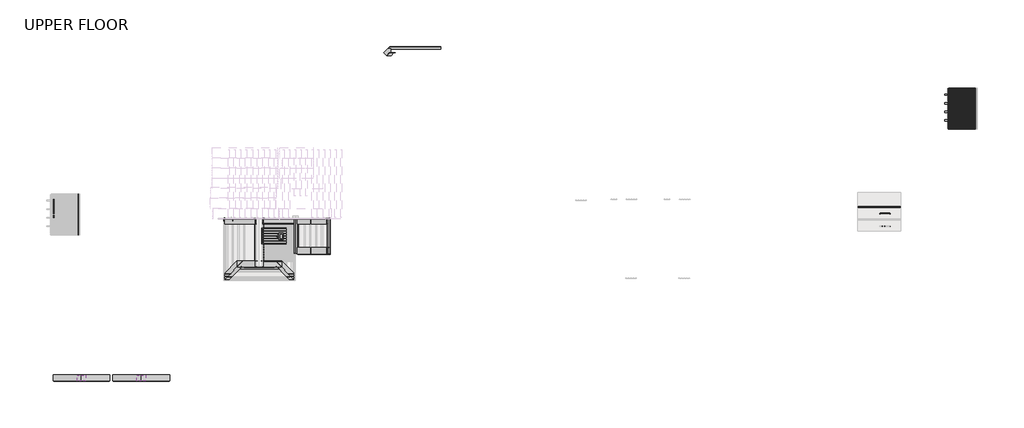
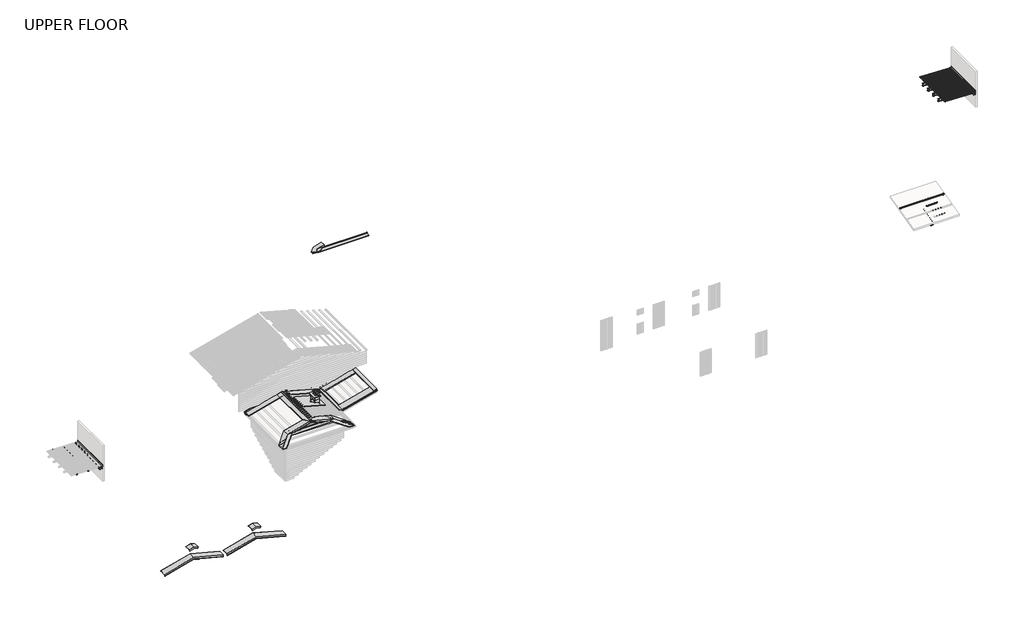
# One storey, part 8 of 8: 36 proxies, 29 beams, 1 furniture element.
"""IFC4 building model written with IfcOpenShell, lengths in millimetres."""

from ifc_helpers import new_model, si_unit, point, frame, frame_2d, origin, place, context, project, spatial, polyline, circle_curve, trimmed, segment, composite_curve, outline, extrude, transform, mapped, element, save
from components import beam_2c57848d, beam_13ac7b86, purlin_purlin_466a0f04, ub_universal_beams_310ub40_4_2dd72c29, ub_universal_beams1_180ub16_1_2_0ceb9c67, generic_models_1df02112, generic_models_45f0d053, generic_models_15316e2f, proxy_45_x_140_beam_11_45_x_140_truss_cd76295c, proxy_45_x_140_beam_2_45_x_140_truss_365ee18d, proxy_45_x_140_beam_3_45_x_140_truss_e8b19fd3, proxy_45_x_140_beam_9_45_x_140_truss_0c6993bd, proxy_45_x_140_beam1_45_x_140_truss_8a47d5ee, proxy_45_x_140_beam2_45_x_140_truss_fb012f4a, proxy_45_x_75_purlin2_45_x_75_purlin_c250b625, proxy_45_x_75_purlin4_45_x_75_purlin_212eab0b, chimney_flashing4_chimney_flashing_829a81cc, chimney_penetration_flashing6_chimney_flashing_7fd86eaf, gutter_board1_gutter_board_67940167, gutter_board2_gutter_board_2d66de1e, roof_b_apron_flashing_2_roof_b_apron_flashing_bac6bcd3, roof_b_apron_flashing_3_roof_b_apron_flashing_e510a248, roof_b_apron_flashing_35_roof_b_apron_flashing_1c69f136, roof_b_barge_flashing10_roof_a_barge_flashing_33ecfb67, roof_b_barge_flashing11_roof_a_barge_flashing_02d569b2, roof_b_barge_flashing12_roof_a_barge_flashing_be4ac543, roof_b_barge_flashing13_roof_a_barge_flashing_57eb997f, roof_b_barge_flashing8_roof_a_barge_flashing_5f2c9a0e, roof_b_barge_flashing9_roof_a_barge_flashing_b211f0b6, roof_b_gutter_end1_roof_b_gutter_end_b5080205, roof_b_hip_flashing_3_roof_b_hip_flashing_29ceef20, roof_b_hip_flashing_4_roof_b_hip_flashing_d01cb08e, roof_b_hip_flashing_5_roof_b_hip_flashing_d5f08a0e, roof_b_ridge_cap_flashing3_ridge_cap_flashing_0eb95630, roof_c_barge_flashing1_roof_c_barge_flashing_03f101cb, roof_c_ridge_flashing1_roof_c_ridge_flashing_aa150d14, roof_c_valley_gutter1_roof_b_valley_gutter_6401df76, chimney_type1_2221_350x500x1500_842d32dd

model = new_model("IFC4")

# Units and contexts
model_context = context("Model", 3, world=origin())
ifc_project = project(units=[si_unit("LENGTHUNIT", "METRE", prefix="MILLI")], contexts=[model_context])

# Site, building, storey
site = spatial("IfcSite", under=ifc_project)
building = spatial("IfcBuilding", under=site)
storey = spatial("IfcBuildingStorey", under=building, Name="UPPER FLOOR", Elevation=2700.0)

# Beams
placement = place(None, origin())
beam_shape = beam_2c57848d(model_context)
element("IfcBeam", 1, ObjectType="3D_Metalcraft Translucent Fixing_T-Rib : 3D_Metalcraft Translucent Fixing_T-Rib", at=placement, inside=storey, context=model_context, shape_type="MappedRepresentation", body=[
    mapped(beam_shape, transform((33667.6173989, -22662.3934233, 1361.9145333), x_axis=(0.0, -0.9656300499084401, -0.2599203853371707), y_axis=(1.0, 0.0, 0.0), z_axis=(0.0, -0.25992038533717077, 0.9656300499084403))),
])
element("IfcBeam", 2, ObjectType="3D_Metalcraft Translucent Fixing_T-Rib : 3D_Metalcraft Translucent Fixing_T-Rib", at=placement, inside=storey, context=model_context, shape_type="MappedRepresentation", body=[
    mapped(beam_shape, transform((33667.6173989, -21715.7861135, 1615.5571975), x_axis=(0.0, -0.9656300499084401, -0.2599203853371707), y_axis=(1.0, 0.0, 0.0), z_axis=(0.0, -0.25992038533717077, 0.9656300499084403))),
])
element("IfcBeam", 3, ObjectType="3D_Metalcraft Translucent Fixing_T-Rib : 3D_Metalcraft Translucent Fixing_T-Rib", at=placement, inside=storey, context=model_context, shape_type="MappedRepresentation", body=[
    mapped(beam_shape, transform((32907.6174384, -21715.7861135, 1615.5571975), x_axis=(0.0, -0.9656300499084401, -0.2599203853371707), y_axis=(1.0, 0.0, 0.0), z_axis=(0.0, -0.25992038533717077, 0.9656300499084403))),
])
element("IfcBeam", 4, ObjectType="3D_Metalcraft Translucent Fixing_T-Rib : 3D_Metalcraft Translucent Fixing_T-Rib", at=placement, inside=storey, context=model_context, shape_type="MappedRepresentation", body=[
    mapped(beam_shape, transform((33667.6173989, -22189.0897684, 1488.7358654), x_axis=(0.0, -0.9656300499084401, -0.2599203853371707), y_axis=(1.0, 0.0, 0.0), z_axis=(0.0, -0.25992038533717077, 0.9656300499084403))),
])
element("IfcBeam", 5, ObjectType="3D_Metalcraft Translucent Fixing_T-Rib : 3D_Metalcraft Translucent Fixing_T-Rib", at=placement, inside=storey, context=model_context, shape_type="MappedRepresentation", body=[
    mapped(beam_shape, transform((33667.6173989, -21242.4824586, 1742.3785296), x_axis=(0.0, -0.9656300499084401, -0.2599203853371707), y_axis=(1.0, 0.0, 0.0), z_axis=(0.0, -0.25992038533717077, 0.9656300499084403))),
])
element("IfcBeam", 6, ObjectType="3D_Metalcraft Translucent Fixing_T-Rib : 3D_Metalcraft Translucent Fixing_T-Rib", at=placement, inside=storey, context=model_context, shape_type="MappedRepresentation", body=[
    mapped(beam_shape, transform((32907.6174384, -21242.4824586, 1742.3785296), x_axis=(0.0, -0.9656300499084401, -0.2599203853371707), y_axis=(1.0, 0.0, 0.0), z_axis=(0.0, -0.25992038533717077, 0.9656300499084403))),
])
element("IfcBeam", 7, ObjectType="3D_Metalcraft Translucent Fixing_T-Rib : 3D_Metalcraft Translucent Fixing_T-Rib", at=placement, inside=storey, context=model_context, shape_type="MappedRepresentation", body=[
    mapped(beam_shape, transform((33097.6173989, -22662.3934233, 1361.9145333), x_axis=(0.0, -0.9656300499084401, -0.2599203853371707), y_axis=(0.9999999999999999, 0.0, 0.0), z_axis=(0.0, -0.2599203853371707, 0.9656300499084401))),
])
element("IfcBeam", 8, ObjectType="3D_Metalcraft Translucent Fixing_T-Rib : 3D_Metalcraft Translucent Fixing_T-Rib", at=placement, inside=storey, context=model_context, shape_type="MappedRepresentation", body=[
    mapped(beam_shape, transform((33097.6173989, -21715.7861135, 1615.5571975), x_axis=(0.0, -0.9656300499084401, -0.2599203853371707), y_axis=(0.9999999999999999, 0.0, 0.0), z_axis=(0.0, -0.2599203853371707, 0.9656300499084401))),
])
element("IfcBeam", 9, ObjectType="3D_Metalcraft Translucent Fixing_T-Rib : 3D_Metalcraft Translucent Fixing_T-Rib", at=placement, inside=storey, context=model_context, shape_type="MappedRepresentation", body=[
    mapped(beam_shape, transform((33097.6173989, -22189.0897684, 1488.7358654), x_axis=(0.0, -0.9656300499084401, -0.2599203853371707), y_axis=(0.9999999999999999, 0.0, 0.0), z_axis=(0.0, -0.2599203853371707, 0.9656300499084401))),
])
element("IfcBeam", 10, ObjectType="3D_Metalcraft Translucent Fixing_T-Rib : 3D_Metalcraft Translucent Fixing_T-Rib", at=placement, inside=storey, context=model_context, shape_type="MappedRepresentation", body=[
    mapped(beam_shape, transform((33097.6173989, -21242.4824586, 1742.3785296), x_axis=(0.0, -0.9656300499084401, -0.2599203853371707), y_axis=(0.9999999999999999, 0.0, 0.0), z_axis=(0.0, -0.2599203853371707, 0.9656300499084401))),
])
element("IfcBeam", 11, ObjectType="3D_Metalcraft Translucent Fixing_T-Rib : 3D_Metalcraft Translucent Fixing_T-Rib", at=placement, inside=storey, context=model_context, shape_type="MappedRepresentation", body=[
    mapped(beam_shape, transform((33477.6173989, -22662.3934233, 1361.9145333), x_axis=(0.0, -0.9656300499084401, -0.2599203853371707), y_axis=(0.9999999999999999, 0.0, 0.0), z_axis=(0.0, -0.2599203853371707, 0.9656300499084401))),
])
element("IfcBeam", 12, ObjectType="3D_Metalcraft Translucent Fixing_T-Rib : 3D_Metalcraft Translucent Fixing_T-Rib", at=placement, inside=storey, context=model_context, shape_type="MappedRepresentation", body=[
    mapped(beam_shape, transform((33477.6173989, -21715.7861135, 1615.5571975), x_axis=(0.0, -0.9656300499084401, -0.2599203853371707), y_axis=(0.9999999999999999, 0.0, 0.0), z_axis=(0.0, -0.2599203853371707, 0.9656300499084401))),
])
element("IfcBeam", 13, ObjectType="3D_Metalcraft Translucent Fixing_T-Rib : 3D_Metalcraft Translucent Fixing_T-Rib", at=placement, inside=storey, context=model_context, shape_type="MappedRepresentation", body=[
    mapped(beam_shape, transform((33477.6173989, -22189.0897684, 1488.7358654), x_axis=(0.0, -0.9656300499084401, -0.2599203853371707), y_axis=(0.9999999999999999, 0.0, 0.0), z_axis=(0.0, -0.2599203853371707, 0.9656300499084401))),
])
element("IfcBeam", 14, ObjectType="3D_Metalcraft Translucent Fixing_T-Rib : 3D_Metalcraft Translucent Fixing_T-Rib", at=placement, inside=storey, context=model_context, shape_type="MappedRepresentation", body=[
    mapped(beam_shape, transform((33477.6173989, -21242.4824586, 1742.3785296), x_axis=(0.0, -0.9656300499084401, -0.2599203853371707), y_axis=(0.9999999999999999, 0.0, 0.0), z_axis=(0.0, -0.2599203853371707, 0.9656300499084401))),
])
element("IfcBeam", 15, ObjectType="3D_Metalcraft Translucent Fixing_T-Rib : 3D_Metalcraft Translucent Fixing_T-Rib", at=placement, inside=storey, context=model_context, shape_type="MappedRepresentation", body=[
    mapped(beam_shape, transform((33287.6173989, -22662.3934233, 1361.9145333), x_axis=(0.0, -0.9656300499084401, -0.2599203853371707), y_axis=(0.9999999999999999, 0.0, 0.0), z_axis=(0.0, -0.2599203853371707, 0.9656300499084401))),
])
element("IfcBeam", 16, ObjectType="3D_Metalcraft Translucent Fixing_T-Rib : 3D_Metalcraft Translucent Fixing_T-Rib", at=placement, inside=storey, context=model_context, shape_type="MappedRepresentation", body=[
    mapped(beam_shape, transform((33287.6173989, -21715.7861135, 1615.5571975), x_axis=(0.0, -0.9656300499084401, -0.2599203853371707), y_axis=(0.9999999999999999, 0.0, 0.0), z_axis=(0.0, -0.2599203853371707, 0.9656300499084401))),
])
element("IfcBeam", 17, ObjectType="3D_Metalcraft Translucent Fixing_T-Rib : 3D_Metalcraft Translucent Fixing_T-Rib", at=placement, inside=storey, context=model_context, shape_type="MappedRepresentation", body=[
    mapped(beam_shape, transform((33287.6173989, -22189.0897684, 1488.7358654), x_axis=(0.0, -0.9656300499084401, -0.2599203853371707), y_axis=(0.9999999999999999, 0.0, 0.0), z_axis=(0.0, -0.2599203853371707, 0.9656300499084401))),
])
element("IfcBeam", 18, ObjectType="3D_Metalcraft Translucent Fixing_T-Rib : 3D_Metalcraft Translucent Fixing_T-Rib", at=placement, inside=storey, context=model_context, shape_type="MappedRepresentation", body=[
    mapped(beam_shape, transform((33287.6173989, -21242.4824586, 1742.3785296), x_axis=(0.0, -0.9656300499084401, -0.2599203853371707), y_axis=(0.9999999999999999, 0.0, 0.0), z_axis=(0.0, -0.2599203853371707, 0.9656300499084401))),
])
beam_2_shape = beam_13ac7b86(model_context)
element("IfcBeam", 19, ObjectType="3D_Metalcraft Corrugate : Corrugate 2", at=placement, inside=storey, context=model_context, shape_type="MappedRepresentation", body=[
    mapped(beam_2_shape, transform((38985.9396263, -15308.8975802, 3891.5237985), x_axis=(-0.9994194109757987, 0.0, 0.03407111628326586), y_axis=(0.0, -1.0, 0.0), z_axis=(0.034071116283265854, 0.0, 0.9994194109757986))),
])
element("IfcBeam", 20, ObjectType="3D_Metalcraft Corrugate : Corrugate 2", at=placement, inside=storey, context=model_context, shape_type="MappedRepresentation", body=[
    mapped(beam_2_shape, transform((38985.9396263, -14549.2471577, 3891.5237985), x_axis=(-0.9994194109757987, 0.0, 0.03407111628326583), y_axis=(0.0, -1.0, 0.0), z_axis=(0.034071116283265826, 0.0, 0.9994194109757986))),
])
element("IfcBeam", 21, ObjectType="3D_Metalcraft Corrugate : Corrugate 2", at=placement, inside=storey, context=model_context, shape_type="MappedRepresentation", body=[
    mapped(beam_2_shape, transform((38985.9396263, -13789.0646025, 3891.5237985), x_axis=(-0.9994194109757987, 0.0, 0.03407111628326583), y_axis=(0.0, -1.0, 0.0), z_axis=(0.034071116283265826, 0.0, 0.9994194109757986))),
])
element("IfcBeam", 22, ObjectType="3D_Metalcraft Corrugate : Corrugate 2", at=placement, inside=storey, context=model_context, shape_type="MappedRepresentation", body=[
    mapped(beam_2_shape, transform((38985.9396263, -13029.41418, 3891.5237985), x_axis=(-0.9994194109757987, 0.0, 0.03407111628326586), y_axis=(0.0, -1.0, 0.0), z_axis=(0.034071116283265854, 0.0, 0.9994194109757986))),
])
purlin_purlin_shape = purlin_purlin_466a0f04(model_context)
element("IfcBeam", 23, ObjectType="Purlin : Purlin", at=placement, inside=storey, context=model_context, shape_type="MappedRepresentation", body=[
    mapped(purlin_purlin_shape, transform((32862.0754421, -21208.9040363, 1614.5173623), x_axis=(1.0, 0.0, 0.0), y_axis=(0.0, 0.9659258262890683, 0.25881904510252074), z_axis=(0.0, -0.25881904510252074, 0.9659258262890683))),
])
element("IfcBeam", 24, ObjectType="3D_Metalcraft Mid Span Support_T-Rib : T-Rib", at=placement, inside=storey, context=model_context, shape_type="SweptSolid", body=[
    extrude(outline(composite_curve([segment(polyline([(5.0675073, -16.820582), (-15.4966673, -30.4481177)]), True, "CONTINUOUS"), segment(trimmed(circle_curve(frame_2d((11.2731701, -38.9897782)), 28.0995402), [point((-15.4966673, -30.4481177))], [point((-16.8263695, -38.9956931))], True, "CARTESIAN"), True, "CONTINUOUS"), segment(trimmed(circle_curve(frame_2d((11.2731701, -39.001608)), 28.0995402), [point((-16.8263695, -38.9956931))], [point((-15.4966673, -47.5432685))], True, "CARTESIAN"), True, "CONTINUOUS"), segment(polyline([(-15.4966673, -47.5432685), (-9.0302865, -51.8284313)]), True, "CONTINUOUS"), segment(trimmed(circle_curve(frame_2d((-9.3064861, -52.2452211)), 0.5), [point((-9.0302865, -51.8284313))], [point((-9.5826858, -52.6620109))], False, "CARTESIAN"), True, "CONTINUOUS"), segment(polyline([(-9.5826858, -52.6620109), (-16.3395078, -48.1843776)]), True, "CONTINUOUS"), segment(trimmed(circle_curve(frame_2d((11.2731701, -39.001608)), 29.0995402), [point((-16.3395078, -48.1843776))], [point((-17.8263694, -38.9956931))], False, "CARTESIAN"), True, "CONTINUOUS"), segment(trimmed(circle_curve(frame_2d((11.2731701, -38.9897782)), 29.0995402), [point((-17.8263694, -38.9956931))], [point((-16.3395078, -29.8070086))], False, "CARTESIAN"), True, "CONTINUOUS"), segment(polyline([(-16.3395078, -29.8070086), (4.5151079, -15.9870024)]), True, "CONTINUOUS"), segment(trimmed(circle_curve(frame_2d((0.0, -9.1736305)), 8.1736305), [point((4.5151079, -15.9870024))], [point((8.1736305, -9.1736305))], True, "CARTESIAN"), True, "CONTINUOUS"), segment(polyline([(8.1736305, -9.1736305), (8.1736305, 691.1822444)]), True, "CONTINUOUS"), segment(trimmed(circle_curve(frame_2d((0.0, 691.1822444)), 8.1736305), [point((8.1736305, 691.1822444))], [point((4.5151079, 697.9956162))], True, "CARTESIAN"), True, "CONTINUOUS"), segment(polyline([(4.5151079, 697.9956162), (-16.3395078, 711.8156224)]), True, "CONTINUOUS"), segment(trimmed(circle_curve(frame_2d((11.2731701, 720.998392)), 29.0995402), [point((-16.3395078, 711.8156224))], [point((-17.8263694, 721.0043069))], False, "CARTESIAN"), True, "CONTINUOUS"), segment(trimmed(circle_curve(frame_2d((11.2731701, 721.0102218)), 29.0995402), [point((-17.8263694, 721.0043069))], [point((-16.3395078, 730.1929914))], False, "CARTESIAN"), True, "CONTINUOUS"), segment(polyline([(-16.3395078, 730.1929914), (-9.5826858, 734.6706247)]), True, "CONTINUOUS"), segment(trimmed(circle_curve(frame_2d((-9.3064861, 734.2538349)), 0.5), [point((-9.5826858, 734.6706247))], [point((-9.0302865, 733.8370451))], False, "CARTESIAN"), True, "CONTINUOUS"), segment(polyline([(-9.0302865, 733.8370451), (-15.4966673, 729.5518823)]), True, "CONTINUOUS"), segment(trimmed(circle_curve(frame_2d((11.2731701, 721.0102218)), 28.0995402), [point((-15.4966673, 729.5518823))], [point((-16.8263695, 721.0043069))], True, "CARTESIAN"), True, "CONTINUOUS"), segment(trimmed(circle_curve(frame_2d((11.2731701, 720.998392)), 28.0995402), [point((-16.8263695, 721.0043069))], [point((-15.4966673, 712.4567315))], True, "CARTESIAN"), True, "CONTINUOUS"), segment(polyline([(-15.4966673, 712.4567315), (5.0675073, 698.8291958)]), True, "CONTINUOUS"), segment(trimmed(circle_curve(frame_2d((0.0, 691.1822444)), 9.1736305), [point((5.0675073, 698.8291958))], [point((9.1736304, 691.1822444))], False, "CARTESIAN"), True, "CONTINUOUS"), segment(polyline([(9.1736304, 691.1822444), (9.1736304, -9.1736305)]), True, "CONTINUOUS"), segment(trimmed(circle_curve(frame_2d((0.0, -9.1736305)), 9.1736305), [point((9.1736304, -9.1736305))], [point((5.0675073, -16.820582))], False, "CARTESIAN"), True, "CONTINUOUS")], self_intersect=False)), frame((33630.4761297, -21721.8661886, 1563.1630908), z_axis=(0.0, 0.9656300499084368, 0.25992038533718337), x_axis=(0.0, 0.25992038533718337, -0.9656300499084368)), (0.0, 0.0, 1.0), 40.0),
    extrude(outline(polyline([(0.0, -1.0), (0.0, 0.0), (701.3215192, 0.0), (701.3215192, -1.0), (0.0, -1.0)])), frame((32938.328241, -21708.1193295, 1515.9394759), z_axis=(0.0, -0.25992038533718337, 0.9656300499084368), x_axis=(1.0, 0.0, 0.0)), (0.0, 0.0, 1.0), 40.0),
])
ub_universal_beams_310ub40_4_shape = ub_universal_beams_310ub40_4_2dd72c29(model_context)
element("IfcBeam", 25, ObjectType="UB-Universal Beams : 310UB40.4", at=placement, inside=storey, context=model_context, shape_type="MappedRepresentation", body=[
    mapped(ub_universal_beams_310ub40_4_shape, transform((32697.6173989, -21707.5527796, 1238.187272), x_axis=(0.0, 0.9658732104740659, 0.2590153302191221), y_axis=(-1.0, 0.0, 0.0), z_axis=(0.0, -0.2590153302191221, 0.9658732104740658))),
])
ub_universal_beams1_180ub16_1_2_shape = ub_universal_beams1_180ub16_1_2_0ceb9c67(model_context)
element("IfcBeam", 26, ObjectType="UB-Universal Beams1 : 180UB16.1 2", at=placement, inside=storey, context=model_context, shape_type="MappedRepresentation", body=[
    mapped(ub_universal_beams1_180ub16_1_2_shape, transform((38971.6659491, -14691.9640915, 3627.0670194), x_axis=(-0.9993895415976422, 0.0, 0.03493628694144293), y_axis=(0.0, -1.0, 0.0), z_axis=(0.03493628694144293, 0.0, 0.9993895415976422))),
])
element("IfcBeam", 27, ObjectType="UB-Universal Beams1 : 180UB16.1 2", at=placement, inside=storey, context=model_context, shape_type="MappedRepresentation", body=[
    mapped(ub_universal_beams1_180ub16_1_2_shape, transform((38971.6659491, -14046.9640915, 3627.0670194), x_axis=(-0.9993895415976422, 0.0, 0.03493628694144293), y_axis=(0.0, -1.0, 0.0), z_axis=(0.03493628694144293, 0.0, 0.9993895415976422))),
])
element("IfcBeam", 28, ObjectType="UB-Universal Beams1 : 180UB16.1 2", at=placement, inside=storey, context=model_context, shape_type="MappedRepresentation", body=[
    mapped(ub_universal_beams1_180ub16_1_2_shape, transform((38971.6659491, -13401.9640915, 3627.0670194), x_axis=(-0.9993895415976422, 0.0, 0.03493628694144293), y_axis=(0.0, -1.0, 0.0), z_axis=(0.03493628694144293, 0.0, 0.9993895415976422))),
])
element("IfcBeam", 29, ObjectType="UB-Universal Beams1 : 180UB16.1 2", at=placement, inside=storey, context=model_context, shape_type="MappedRepresentation", body=[
    mapped(ub_universal_beams1_180ub16_1_2_shape, transform((38971.6659491, -12756.9640915, 3627.0670194), x_axis=(-0.9993895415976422, 0.0, 0.03493628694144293), y_axis=(0.0, -1.0, 0.0), z_axis=(0.03493628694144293, 0.0, 0.9993895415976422))),
])

# Proxies
generic_models_shape = generic_models_1df02112(model_context)
element("IfcBuildingElementProxy", 30, Name="Roof B - Apron Diverter1 : Roof B - Apron Diverter", ObjectType="Roof B - Apron Diverter1 : Roof B - Apron Diverter", at=placement, inside=storey, context=model_context, shape_type="MappedRepresentation", body=[
    mapped(generic_models_shape, transform((0.0, 0.0, 0.0), x_axis=(1.0, 0.0, 0.0), y_axis=(0.0, 1.0, 0.0), z_axis=(0.0, 0.0, 1.0))),
])
generic_models_2_shape = generic_models_45f0d053(model_context)
element("IfcBuildingElementProxy", 31, Name="Prefinished Hidden Gutter1 : Prefinished Hidden Gutter", ObjectType="Prefinished Hidden Gutter1 : Prefinished Hidden Gutter", at=placement, inside=storey, context=model_context, shape_type="MappedRepresentation", body=[
    mapped(generic_models_2_shape, transform((0.0, 0.0, 0.0), x_axis=(1.0, 0.0, 0.0), y_axis=(0.0, 1.0, 0.0), z_axis=(0.0, 0.0, 1.0))),
])
generic_models_3_shape = generic_models_15316e2f(model_context)
element("IfcBuildingElementProxy", 32, Name="Prefinished Hidden Gutter2 : Prefinished Hidden Gutter", ObjectType="Prefinished Hidden Gutter2 : Prefinished Hidden Gutter", at=placement, inside=storey, context=model_context, shape_type="MappedRepresentation", body=[
    mapped(generic_models_3_shape, transform((0.0, 0.0, 0.0), x_axis=(1.0, 0.0, 0.0), y_axis=(0.0, 1.0, 0.0), z_axis=(0.0, 0.0, 1.0))),
])
proxy_45_x_140_beam_11_45_x_140_truss_shape = proxy_45_x_140_beam_11_45_x_140_truss_cd76295c(model_context)
element("IfcBuildingElementProxy", 33, Name="45 x 140 beam 11 : 45 x 140 truss", ObjectType="45 x 140 beam 11 : 45 x 140 truss", at=placement, inside=storey, context=model_context, shape_type="MappedRepresentation", body=[
    mapped(proxy_45_x_140_beam_11_45_x_140_truss_shape, transform((-125.9876535, 0.0, 0.0), x_axis=(1.0, 0.0, 0.0), y_axis=(0.0, 1.0, 0.0), z_axis=(0.0, 0.0, 1.0))),
])
proxy_45_x_140_beam_2_45_x_140_truss_shape = proxy_45_x_140_beam_2_45_x_140_truss_365ee18d(model_context)
element("IfcBuildingElementProxy", 34, Name="45 x 140 beam 2 : 45 x 140 truss", ObjectType="45 x 140 beam 2 : 45 x 140 truss", at=placement, inside=storey, context=model_context, shape_type="MappedRepresentation", body=[
    mapped(proxy_45_x_140_beam_2_45_x_140_truss_shape, transform((-155.7036106, 0.0, 0.0), x_axis=(1.0, 0.0, 0.0), y_axis=(0.0, 1.0, 0.0), z_axis=(0.0, 0.0, 1.0))),
])
proxy_45_x_140_beam_3_45_x_140_truss_shape = proxy_45_x_140_beam_3_45_x_140_truss_e8b19fd3(model_context)
element("IfcBuildingElementProxy", 35, Name="45 x 140 beam 3 : 45 x 140 truss", ObjectType="45 x 140 beam 3 : 45 x 140 truss", at=placement, inside=storey, context=model_context, shape_type="MappedRepresentation", body=[
    mapped(proxy_45_x_140_beam_3_45_x_140_truss_shape, transform((-155.7036106, 2.3451936, 0.0), x_axis=(1.0, 0.0, 0.0), y_axis=(0.0, 1.0, 0.0), z_axis=(0.0, 0.0, 1.0))),
])
element("IfcBuildingElementProxy", 36, Name="45 x 140 beam 5 : 45 x 140 truss", ObjectType="45 x 140 beam 5 : 45 x 140 truss", at=placement, inside=storey, context=model_context, shape_type="MappedRepresentation", body=[
    mapped(proxy_45_x_140_beam_3_45_x_140_truss_shape, transform((-155.7036106, 647.3451936, 0.0), x_axis=(1.0, 0.0, 0.0), y_axis=(0.0, 1.0, 0.0), z_axis=(0.0, 0.0, 1.0))),
])
element("IfcBuildingElementProxy", 37, Name="45 x 140 beam 7 : 45 x 140 truss", ObjectType="45 x 140 beam 7 : 45 x 140 truss", at=placement, inside=storey, context=model_context, shape_type="MappedRepresentation", body=[
    mapped(proxy_45_x_140_beam_3_45_x_140_truss_shape, transform((-155.7036106, 1292.3451936, 0.0), x_axis=(1.0, 0.0, 0.0), y_axis=(0.0, 1.0, 0.0), z_axis=(0.0, 0.0, 1.0))),
])
proxy_45_x_140_beam_9_45_x_140_truss_shape = proxy_45_x_140_beam_9_45_x_140_truss_0c6993bd(model_context)
element("IfcBuildingElementProxy", 38, Name="45 x 140 beam 9 : 45 x 140 truss", ObjectType="45 x 140 beam 9 : 45 x 140 truss", at=placement, inside=storey, context=model_context, shape_type="MappedRepresentation", body=[
    mapped(proxy_45_x_140_beam_9_45_x_140_truss_shape, transform((-155.7036106, 1937.3451936, 0.0), x_axis=(1.0, 0.0, 0.0), y_axis=(0.0, 1.0, 0.0), z_axis=(0.0, 0.0, 1.0))),
])
proxy_45_x_140_beam1_45_x_140_truss_shape = proxy_45_x_140_beam1_45_x_140_truss_8a47d5ee(model_context)
element("IfcBuildingElementProxy", 39, Name="45 x 140 beam1 : 45 x 140 truss", ObjectType="45 x 140 beam1 : 45 x 140 truss", at=placement, inside=storey, context=model_context, shape_type="MappedRepresentation", body=[
    mapped(proxy_45_x_140_beam1_45_x_140_truss_shape, transform((0.0, 0.0, 0.0), x_axis=(1.0, 0.0, 0.0), y_axis=(0.0, 1.0, 0.0), z_axis=(0.0, 0.0, 1.0))),
])
proxy_45_x_140_beam2_45_x_140_truss_shape = proxy_45_x_140_beam2_45_x_140_truss_fb012f4a(model_context)
element("IfcBuildingElementProxy", 40, Name="45 x 140 beam2 : 45 x 140 truss", ObjectType="45 x 140 beam2 : 45 x 140 truss", at=placement, inside=storey, context=model_context, shape_type="MappedRepresentation", body=[
    mapped(proxy_45_x_140_beam2_45_x_140_truss_shape, transform((0.0, 0.0, 0.0), x_axis=(1.0, 0.0, 0.0), y_axis=(0.0, 1.0, 0.0), z_axis=(0.0, 0.0, 1.0))),
])
proxy_45_x_75_purlin2_45_x_75_purlin_shape = proxy_45_x_75_purlin2_45_x_75_purlin_c250b625(model_context)
element("IfcBuildingElementProxy", 41, Name="45 x 75 purlin2 : 45 x 75 purlin", ObjectType="45 x 75 purlin2 : 45 x 75 purlin", at=placement, inside=storey, context=model_context, shape_type="MappedRepresentation", body=[
    mapped(proxy_45_x_75_purlin2_45_x_75_purlin_shape, transform((0.0, 0.0, 0.0), x_axis=(1.0, 0.0, 0.0), y_axis=(0.0, 1.0, 0.0), z_axis=(0.0, 0.0, 1.0))),
])
proxy_45_x_75_purlin4_45_x_75_purlin_shape = proxy_45_x_75_purlin4_45_x_75_purlin_212eab0b(model_context)
element("IfcBuildingElementProxy", 42, Name="45 x 75 purlin4 : 45 x 75 purlin", ObjectType="45 x 75 purlin4 : 45 x 75 purlin", at=placement, inside=storey, context=model_context, shape_type="MappedRepresentation", body=[
    mapped(proxy_45_x_75_purlin4_45_x_75_purlin_shape, transform((-8.2036106, 2.3451936, 0.0), x_axis=(1.0, 0.0, 0.0), y_axis=(0.0, 1.0, 0.0), z_axis=(0.0, 0.0, 1.0))),
])
element("IfcBuildingElementProxy", 43, Name="45 x 75 purlin5 : 45 x 75 purlin", ObjectType="45 x 75 purlin5 : 45 x 75 purlin", at=placement, inside=storey, context=model_context, shape_type="MappedRepresentation", body=[
    mapped(proxy_45_x_75_purlin4_45_x_75_purlin_shape, transform((-831.4746246, 2.3451936, 28.7810395), x_axis=(1.0, 0.0, 0.0), y_axis=(0.0, 1.0, 0.0), z_axis=(0.0, 0.0, 1.0))),
])
chimney_flashing4_chimney_flashing_shape = chimney_flashing4_chimney_flashing_829a81cc(model_context)
element("IfcBuildingElementProxy", 44, Name="Chimney Flashing4 : Chimney Flashing", ObjectType="Chimney Flashing4 : Chimney Flashing", at=placement, inside=storey, context=model_context, shape_type="MappedRepresentation", body=[
    mapped(chimney_flashing4_chimney_flashing_shape, transform((0.0, 0.0, 0.0), x_axis=(1.0, 0.0, 0.0), y_axis=(0.0, 1.0, 0.0), z_axis=(0.0, 0.0, 1.0))),
])
chimney_penetration_flashing6_chimney_flashing_shape = chimney_penetration_flashing6_chimney_flashing_7fd86eaf(model_context)
element("IfcBuildingElementProxy", 45, Name="Chimney Penetration Flashing6 : Chimney Flashing", ObjectType="Chimney Penetration Flashing6 : Chimney Flashing", at=placement, inside=storey, context=model_context, shape_type="MappedRepresentation", body=[
    mapped(chimney_penetration_flashing6_chimney_flashing_shape, transform((0.0, 0.0, 0.0), x_axis=(1.0, 0.0, 0.0), y_axis=(0.0, 1.0, 0.0), z_axis=(0.0, 0.0, 1.0))),
])
gutter_board1_gutter_board_shape = gutter_board1_gutter_board_67940167(model_context)
element("IfcBuildingElementProxy", 46, Name="Gutter board1 : Gutter board", ObjectType="Gutter board1 : Gutter board", at=placement, inside=storey, context=model_context, shape_type="MappedRepresentation", body=[
    mapped(gutter_board1_gutter_board_shape, transform((0.0, 0.0, 0.0), x_axis=(1.0, 0.0, 0.0), y_axis=(0.0, 1.0, 0.0), z_axis=(0.0, 0.0, 1.0))),
])
gutter_board2_gutter_board_shape = gutter_board2_gutter_board_2d66de1e(model_context)
element("IfcBuildingElementProxy", 47, Name="Gutter board2 : Gutter board", ObjectType="Gutter board2 : Gutter board", at=placement, inside=storey, context=model_context, shape_type="MappedRepresentation", body=[
    mapped(gutter_board2_gutter_board_shape, transform((0.0, 0.0, 0.0), x_axis=(1.0, 0.0, 0.0), y_axis=(0.0, 1.0, 0.0), z_axis=(0.0, 0.0, 1.0))),
])
roof_b_apron_flashing_2_roof_b_apron_flashing_shape = roof_b_apron_flashing_2_roof_b_apron_flashing_bac6bcd3(model_context)
element("IfcBuildingElementProxy", 48, Name="Roof B - Apron Flashing 2 : Roof B Apron Flashing", ObjectType="Roof B - Apron Flashing 2 : Roof B Apron Flashing", at=placement, inside=storey, context=model_context, shape_type="MappedRepresentation", body=[
    mapped(roof_b_apron_flashing_2_roof_b_apron_flashing_shape, transform((0.0, 0.0, 0.0), x_axis=(1.0, 0.0, 0.0), y_axis=(0.0, 1.0, 0.0), z_axis=(0.0, 0.0, 1.0))),
])
roof_b_apron_flashing_3_roof_b_apron_flashing_shape = roof_b_apron_flashing_3_roof_b_apron_flashing_e510a248(model_context)
element("IfcBuildingElementProxy", 49, Name="Roof B - Apron Flashing 3 : Roof B Apron Flashing", ObjectType="Roof B - Apron Flashing 3 : Roof B Apron Flashing", at=placement, inside=storey, context=model_context, shape_type="MappedRepresentation", body=[
    mapped(roof_b_apron_flashing_3_roof_b_apron_flashing_shape, transform((31.4603681, 3876.8512625, -665.7477055), x_axis=(1.0, 0.0, 0.0), y_axis=(0.0, 1.0, 0.0), z_axis=(0.0, 0.0, 1.0))),
])
roof_b_apron_flashing_35_roof_b_apron_flashing_shape = roof_b_apron_flashing_35_roof_b_apron_flashing_1c69f136(model_context)
element("IfcBuildingElementProxy", 50, Name="Roof B - Apron Flashing 35 : Roof B Apron Flashing", ObjectType="Roof B - Apron Flashing 35 : Roof B Apron Flashing", at=placement, inside=storey, context=model_context, shape_type="MappedRepresentation", body=[
    mapped(roof_b_apron_flashing_35_roof_b_apron_flashing_shape, transform((0.0, 0.0, 0.0), x_axis=(1.0, 0.0, 0.0), y_axis=(0.0, 1.0, 0.0), z_axis=(0.0, 0.0, 1.0))),
])
roof_b_barge_flashing10_roof_a_barge_flashing_shape = roof_b_barge_flashing10_roof_a_barge_flashing_33ecfb67(model_context)
element("IfcBuildingElementProxy", 51, Name="Roof B - Barge Flashing10 : Roof A - Barge Flashing", ObjectType="Roof B - Barge Flashing10 : Roof A - Barge Flashing", at=placement, inside=storey, context=model_context, shape_type="MappedRepresentation", body=[
    mapped(roof_b_barge_flashing10_roof_a_barge_flashing_shape, transform((0.0, 0.0, 0.0), x_axis=(1.0, 0.0, 0.0), y_axis=(0.0, 1.0, 0.0), z_axis=(0.0, 0.0, 1.0))),
])
roof_b_barge_flashing11_roof_a_barge_flashing_shape = roof_b_barge_flashing11_roof_a_barge_flashing_02d569b2(model_context)
element("IfcBuildingElementProxy", 52, Name="Roof B - Barge Flashing11 : Roof A - Barge Flashing", ObjectType="Roof B - Barge Flashing11 : Roof A - Barge Flashing", at=placement, inside=storey, context=model_context, shape_type="MappedRepresentation", body=[
    mapped(roof_b_barge_flashing11_roof_a_barge_flashing_shape, transform((4.2711345, 3399.9661714, 730.0829115), x_axis=(1.0, 0.0, 0.0), y_axis=(0.0, 1.0, 0.0), z_axis=(0.0, 0.0, 1.0))),
])
roof_b_barge_flashing12_roof_a_barge_flashing_shape = roof_b_barge_flashing12_roof_a_barge_flashing_be4ac543(model_context)
element("IfcBuildingElementProxy", 53, Name="Roof B - Barge Flashing12 : Roof A - Barge Flashing", ObjectType="Roof B - Barge Flashing12 : Roof A - Barge Flashing", at=placement, inside=storey, context=model_context, shape_type="MappedRepresentation", body=[
    mapped(roof_b_barge_flashing12_roof_a_barge_flashing_shape, transform((0.0, 0.0, -500.0), x_axis=(1.0, 0.0, 0.0), y_axis=(0.0, 1.0, 0.0), z_axis=(0.0, 0.0, 1.0))),
])
roof_b_barge_flashing13_roof_a_barge_flashing_shape = roof_b_barge_flashing13_roof_a_barge_flashing_57eb997f(model_context)
element("IfcBuildingElementProxy", 54, Name="Roof B - Barge Flashing13 : Roof A - Barge Flashing", ObjectType="Roof B - Barge Flashing13 : Roof A - Barge Flashing", at=placement, inside=storey, context=model_context, shape_type="MappedRepresentation", body=[
    mapped(roof_b_barge_flashing13_roof_a_barge_flashing_shape, transform((0.0, 0.0, 0.0), x_axis=(1.0, 0.0, 0.0), y_axis=(0.0, 1.0, 0.0), z_axis=(0.0, 0.0, 1.0))),
])
element("IfcBuildingElementProxy", 55, Name="Roof B - Barge Flashing14 : Roof A - Barge Flashing", ObjectType="Roof B - Barge Flashing14 : Roof A - Barge Flashing", at=placement, inside=storey, context=model_context, shape_type="MappedRepresentation", body=[
    mapped(roof_b_barge_flashing12_roof_a_barge_flashing_shape, transform((-4500.0, 0.0, -500.0), x_axis=(1.0, 0.0, 0.0), y_axis=(0.0, 1.0, 0.0), z_axis=(0.0, 0.0, 1.0))),
])
roof_b_barge_flashing8_roof_a_barge_flashing_shape = roof_b_barge_flashing8_roof_a_barge_flashing_5f2c9a0e(model_context)
element("IfcBuildingElementProxy", 56, Name="Roof B - Barge Flashing8 : Roof A - Barge Flashing", ObjectType="Roof B - Barge Flashing8 : Roof A - Barge Flashing", at=placement, inside=storey, context=model_context, shape_type="MappedRepresentation", body=[
    mapped(roof_b_barge_flashing8_roof_a_barge_flashing_shape, transform((0.0, 0.0, 0.0), x_axis=(1.0, 0.0, 0.0), y_axis=(0.0, 1.0, 0.0), z_axis=(0.0, 0.0, 1.0))),
])
roof_b_barge_flashing9_roof_a_barge_flashing_shape = roof_b_barge_flashing9_roof_a_barge_flashing_b211f0b6(model_context)
element("IfcBuildingElementProxy", 57, Name="Roof B - Barge Flashing9 : Roof A - Barge Flashing", ObjectType="Roof B - Barge Flashing9 : Roof A - Barge Flashing", at=placement, inside=storey, context=model_context, shape_type="MappedRepresentation", body=[
    mapped(roof_b_barge_flashing9_roof_a_barge_flashing_shape, transform((0.0, 0.0, 0.0), x_axis=(1.0, 0.0, 0.0), y_axis=(0.0, 1.0, 0.0), z_axis=(0.0, 0.0, 1.0))),
])
roof_b_gutter_end1_roof_b_gutter_end_shape = roof_b_gutter_end1_roof_b_gutter_end_b5080205(model_context)
element("IfcBuildingElementProxy", 58, Name="Roof B - Gutter End1 : Roof B - Gutter End", ObjectType="Roof B - Gutter End1 : Roof B - Gutter End", at=placement, inside=storey, context=model_context, shape_type="MappedRepresentation", body=[
    mapped(roof_b_gutter_end1_roof_b_gutter_end_shape, transform((0.0, 0.0, 20.0), x_axis=(1.0, 0.0, 0.0), y_axis=(0.0, 1.0, 0.0), z_axis=(0.0, 0.0, 1.0))),
])
roof_b_hip_flashing_3_roof_b_hip_flashing_shape = roof_b_hip_flashing_3_roof_b_hip_flashing_29ceef20(model_context)
element("IfcBuildingElementProxy", 59, Name="Roof B - Hip Flashing 3 : Roof B Hip Flashing", ObjectType="Roof B - Hip Flashing 3 : Roof B Hip Flashing", at=placement, inside=storey, context=model_context, shape_type="MappedRepresentation", body=[
    mapped(roof_b_hip_flashing_3_roof_b_hip_flashing_shape, transform((0.0, 0.0, 0.0), x_axis=(1.0, 0.0, 0.0), y_axis=(0.0, 1.0, 0.0), z_axis=(0.0, 0.0, 1.0))),
])
roof_b_hip_flashing_4_roof_b_hip_flashing_shape = roof_b_hip_flashing_4_roof_b_hip_flashing_d01cb08e(model_context)
element("IfcBuildingElementProxy", 60, Name="Roof B - Hip Flashing 4 : Roof B Hip Flashing", ObjectType="Roof B - Hip Flashing 4 : Roof B Hip Flashing", at=placement, inside=storey, context=model_context, shape_type="MappedRepresentation", body=[
    mapped(roof_b_hip_flashing_4_roof_b_hip_flashing_shape, transform((0.0, 0.0, 0.0), x_axis=(1.0, 0.0, 0.0), y_axis=(0.0, 1.0, 0.0), z_axis=(0.0, 0.0, 1.0))),
])
roof_b_hip_flashing_5_roof_b_hip_flashing_shape = roof_b_hip_flashing_5_roof_b_hip_flashing_d5f08a0e(model_context)
element("IfcBuildingElementProxy", 61, Name="Roof B - Hip Flashing 5 : Roof B Hip Flashing", ObjectType="Roof B - Hip Flashing 5 : Roof B Hip Flashing", at=placement, inside=storey, context=model_context, shape_type="MappedRepresentation", body=[
    mapped(roof_b_hip_flashing_5_roof_b_hip_flashing_shape, transform((4.2711345, 3399.9661714, 730.0829115), x_axis=(1.0, 0.0, 0.0), y_axis=(0.0, 1.0, 0.0), z_axis=(0.0, 0.0, 1.0))),
])
roof_b_ridge_cap_flashing3_ridge_cap_flashing_shape = roof_b_ridge_cap_flashing3_ridge_cap_flashing_0eb95630(model_context)
element("IfcBuildingElementProxy", 62, Name="Roof B - Ridge Cap Flashing3 : Ridge Cap Flashing", ObjectType="Roof B - Ridge Cap Flashing3 : Ridge Cap Flashing", at=placement, inside=storey, context=model_context, shape_type="MappedRepresentation", body=[
    mapped(roof_b_ridge_cap_flashing3_ridge_cap_flashing_shape, transform((0.0, 0.0, 0.0), x_axis=(1.0, 0.0, 0.0), y_axis=(0.0, 1.0, 0.0), z_axis=(0.0, 0.0, 1.0))),
])
roof_c_barge_flashing1_roof_c_barge_flashing_shape = roof_c_barge_flashing1_roof_c_barge_flashing_03f101cb(model_context)
element("IfcBuildingElementProxy", 63, Name="Roof C - Barge Flashing1 : Roof C - Barge Flashing", ObjectType="Roof C - Barge Flashing1 : Roof C - Barge Flashing", at=placement, inside=storey, context=model_context, shape_type="MappedRepresentation", body=[
    mapped(roof_c_barge_flashing1_roof_c_barge_flashing_shape, transform((0.0, 0.0, 0.0), x_axis=(1.0, 0.0, 0.0), y_axis=(0.0, 1.0, 0.0), z_axis=(0.0, 0.0, 1.0))),
])
roof_c_ridge_flashing1_roof_c_ridge_flashing_shape = roof_c_ridge_flashing1_roof_c_ridge_flashing_aa150d14(model_context)
element("IfcBuildingElementProxy", 64, Name="Roof C - Ridge Flashing1 : Roof C - Ridge Flashing", ObjectType="Roof C - Ridge Flashing1 : Roof C - Ridge Flashing", at=placement, inside=storey, context=model_context, shape_type="MappedRepresentation", body=[
    mapped(roof_c_ridge_flashing1_roof_c_ridge_flashing_shape, transform((0.0, 0.0, 0.0), x_axis=(1.0, 0.0, 0.0), y_axis=(0.0, 1.0, 0.0), z_axis=(0.0, 0.0, 1.0))),
])
roof_c_valley_gutter1_roof_b_valley_gutter_shape = roof_c_valley_gutter1_roof_b_valley_gutter_6401df76(model_context)
element("IfcBuildingElementProxy", 65, Name="Roof C - Valley Gutter1 : Roof B Valley Gutter", ObjectType="Roof C - Valley Gutter1 : Roof B Valley Gutter", at=placement, inside=storey, context=model_context, shape_type="MappedRepresentation", body=[
    mapped(roof_c_valley_gutter1_roof_b_valley_gutter_shape, transform((0.0, 0.0, 0.0), x_axis=(1.0, 0.0, 0.0), y_axis=(0.0, 1.0, 0.0), z_axis=(0.0, 0.0, 1.0))),
])

# Furniture
chimney_type1_2221_350x500x1500_shape = chimney_type1_2221_350x500x1500_842d32dd(model_context)
element("IfcFurniture", 66, ObjectType="Chimney_Type1_2221 : 350x500x1500", at=placement, inside=storey, context=model_context, shape_type="MappedRepresentation", body=[
    mapped(chimney_type1_2221_350x500x1500_shape, transform((-12132.2155949, -23423.097051, 3287.3364714), x_axis=(1.0, 0.0, 0.0), y_axis=(0.0, 1.0, 0.0), z_axis=(0.0, 0.0, 1.0))),
])

save(model, "model.ifc")
